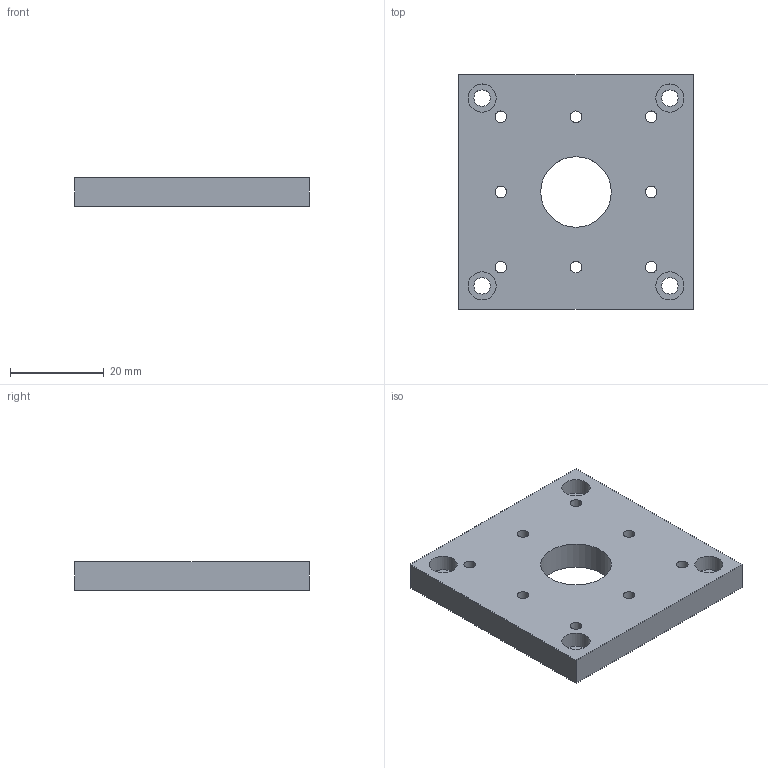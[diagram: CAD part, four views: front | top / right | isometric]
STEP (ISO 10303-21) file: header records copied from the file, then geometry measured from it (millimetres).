
FILE_DESCRIPTION( ( 'STEP AP203' ), '1' );
FILE_NAME( '//Srg14/OST事業部/技術G/Topsolid/PARTS/M-PARTS/A49-50B-1/3D_A49-50B-1/3D_A49-50B-1+090218.step', '2009-02-18T01:37:39', ( ' ' ), ( ' ' ), 'XStep 1.0', ' ', ' ' );
FILE_SCHEMA( ( 'CONFIG_CONTROL_DESIGN' ) );
Length unit declared in the file: millimetre
Products named in the file (1): 1
Bounding box: 50 x 50 x 6 mm (x, y, z)
Volume: 13212 mm3; surface area: 6724.6 mm2
Topology: 1 solids, 1 shells, 27 faces, 67 edges, 46 vertices
Faces by surface type: cylinder 17, plane 10
Full cylindrical faces by diameter (mm): 2.5 x8, 3.5 x4, 6 x4, 15 x1
Entity records: 802 total; most frequent: DIRECTION 136, CARTESIAN_POINT 116, ORIENTED_EDGE 92, EDGE_LOOP 74, AXIS2_PLACEMENT_3D 62, EDGE_CURVE 46, FACE_OUTER_BOUND 44, VERTEX_POINT 42
